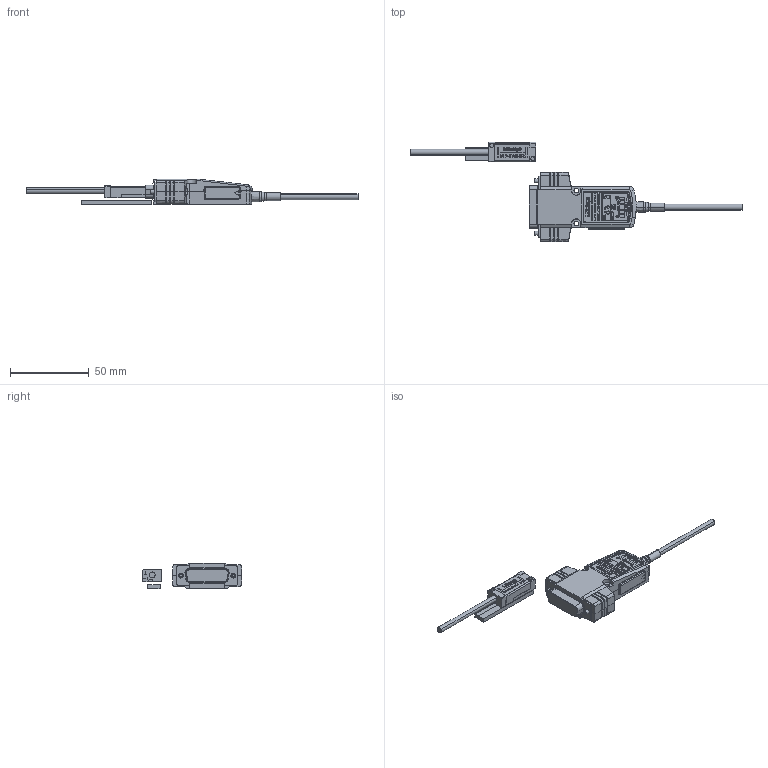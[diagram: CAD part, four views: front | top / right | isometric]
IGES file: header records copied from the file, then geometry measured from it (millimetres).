
Start section: Elysium IGES Interface
Global section: file name: 77H\\Utsu119s\kiyo_cad\data\3D\ST46EZA\HP掲載用_201708\ST46EZA-B\ST46EZA-25B.igs; native system: Creo Elements/Direct Modeling 18.1B  29-Sep-2012; preprocessor: Creo Element/Direct IGES_3D V2.2; author: Unknown; organization: Unknown; date: 20170913.153757; units: millimetre
Bounding box: 211 x 63.16 x 16.48 mm (x, y, z)
Volume: 4727.8 mm3; surface area: 14768.6 mm2
Topology: 3 solids, 5 shells, 2223 faces, 5923 edges, 3859 vertices
Faces by surface type: bspline 2223
